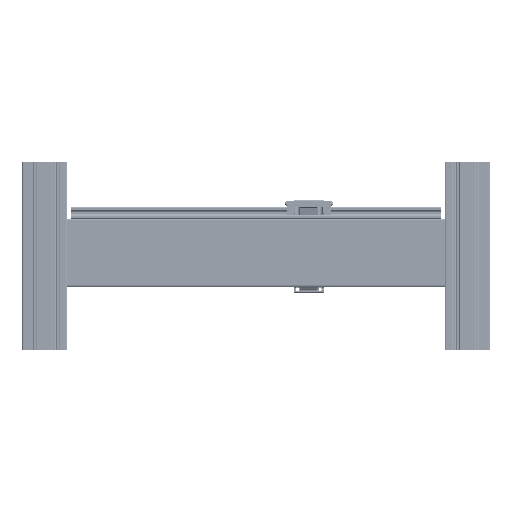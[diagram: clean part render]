
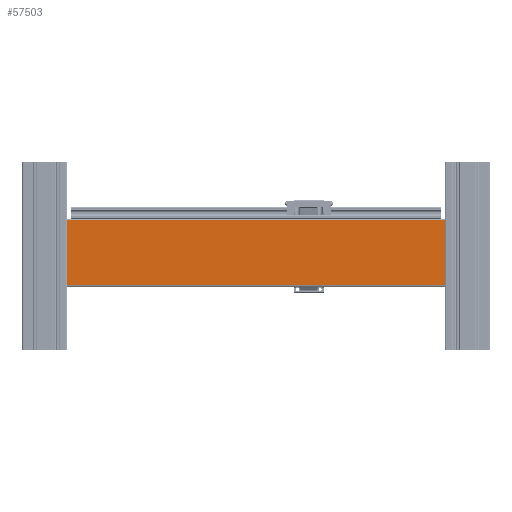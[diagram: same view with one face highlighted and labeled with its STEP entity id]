
A CAD part, front view. The second image highlights one B-rep face of the part: STEP entity #57503.
In plain terms, the highlighted planar face has unit normal (0, -1, 0).
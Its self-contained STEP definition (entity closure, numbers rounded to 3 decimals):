
#7723=FACE_OUTER_BOUND('',#10848,.T.);
#10848=EDGE_LOOP('',(#49075,#49076,#49077,#49078));
#16246=LINE('',#95407,#21630);
#16247=LINE('',#95410,#21631);
#16248=LINE('',#95412,#21632);
#16249=LINE('',#95413,#21633);
#21630=VECTOR('',#77378,10.);
#21631=VECTOR('',#77381,10.);
#21632=VECTOR('',#77382,10.);
#21633=VECTOR('',#77383,10.);
#26769=VERTEX_POINT('',#95403);
#26770=VERTEX_POINT('',#95405);
#26771=VERTEX_POINT('',#95409);
#26772=VERTEX_POINT('',#95411);
#34598=EDGE_CURVE('',#26769,#26770,#16246,.T.);
#34599=EDGE_CURVE('',#26771,#26769,#16247,.T.);
#34600=EDGE_CURVE('',#26772,#26770,#16248,.T.);
#34601=EDGE_CURVE('',#26771,#26772,#16249,.T.);
#49075=ORIENTED_EDGE('',*,*,#34599,.T.);
#49076=ORIENTED_EDGE('',*,*,#34598,.T.);
#49077=ORIENTED_EDGE('',*,*,#34600,.F.);
#49078=ORIENTED_EDGE('',*,*,#34601,.F.);
#54976=PLANE('',#62679);
#57503=ADVANCED_FACE('',(#7723),#54976,.T.);
#62679=AXIS2_PLACEMENT_3D('',#95408,#77379,#77380);
#77378=DIRECTION('',(0.,0.,1.));
#77379=DIRECTION('center_axis',(0.,-1.,0.));
#77380=DIRECTION('ref_axis',(1.,0.,0.));
#77381=DIRECTION('',(1.,0.,0.));
#77382=DIRECTION('',(1.,0.,0.));
#77383=DIRECTION('',(0.,0.,1.));
#95403=CARTESIAN_POINT('',(68.3,-30.,0.));
#95405=CARTESIAN_POINT('',(68.3,-30.,500.));
#95407=CARTESIAN_POINT('',(68.3,-30.,0.));
#95408=CARTESIAN_POINT('Origin',(-17.7,-30.,0.));
#95409=CARTESIAN_POINT('',(-17.7,-30.,0.));
#95410=CARTESIAN_POINT('',(-17.7,-30.,0.));
#95411=CARTESIAN_POINT('',(-17.7,-30.,500.));
#95412=CARTESIAN_POINT('',(-17.7,-30.,500.));
#95413=CARTESIAN_POINT('',(-17.7,-30.,0.));
